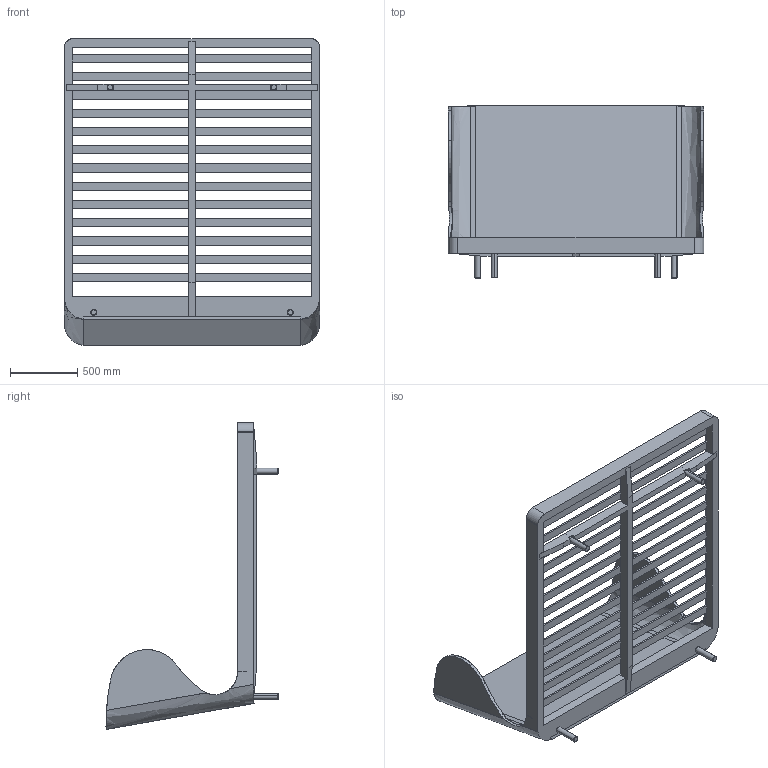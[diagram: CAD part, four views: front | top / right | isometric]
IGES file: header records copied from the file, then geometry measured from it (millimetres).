
Start section: SolidWorks IGES file using analytic representation for surfaces
Global section: file name: C:\Users\David.BDLE\Desktop\265ZK suite bed_version h_2014-05-29\265ZK Suite Bed_3D IGS.IGS; native system: SolidWorks 2016; preprocessor: SolidWorks 2016; author: David; date: 210616.122004; units: millimetre
Bounding box: 1905 x 1283.51 x 2288.51 mm (x, y, z)
Surface area: 12606669.7 mm2 (no closed solid volume)
Topology: 0 solids, 0 shells, 278 faces, 3514 edges, 3514 vertices
Faces by surface type: bspline 211, revolution 67
